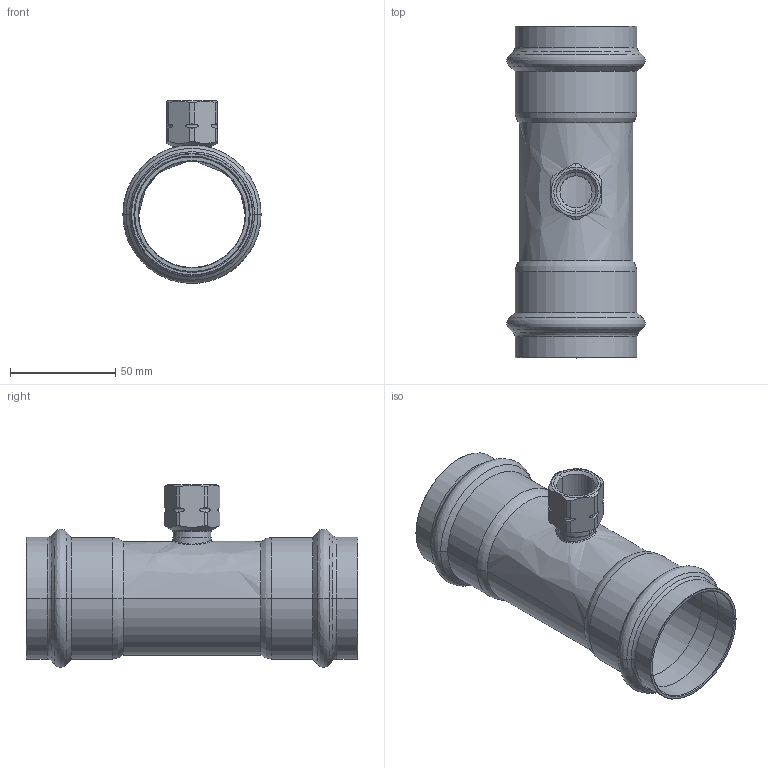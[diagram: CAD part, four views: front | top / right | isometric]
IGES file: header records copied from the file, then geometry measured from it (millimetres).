
Start section: Elysium IGES Interface
Global section: file name: C:\3d modellen sudo\C-Pr VP\SP8130GV\8130GVW541254.igs; native system: CoCreate Modeling 17.00A  17-Jun-2010; preprocessor: CoCreate IGES_3D V2.2; author: Unknown; organization: Unknown; date: 20130305.090915; units: millimetre
Bounding box: 65.68 x 157.73 x 86.83 mm (x, y, z)
Volume: 61876.2 mm3; surface area: 60883.7 mm2
Topology: 1 solids, 1 shells, 137 faces, 322 edges, 192 vertices
Faces by surface type: bspline 137
